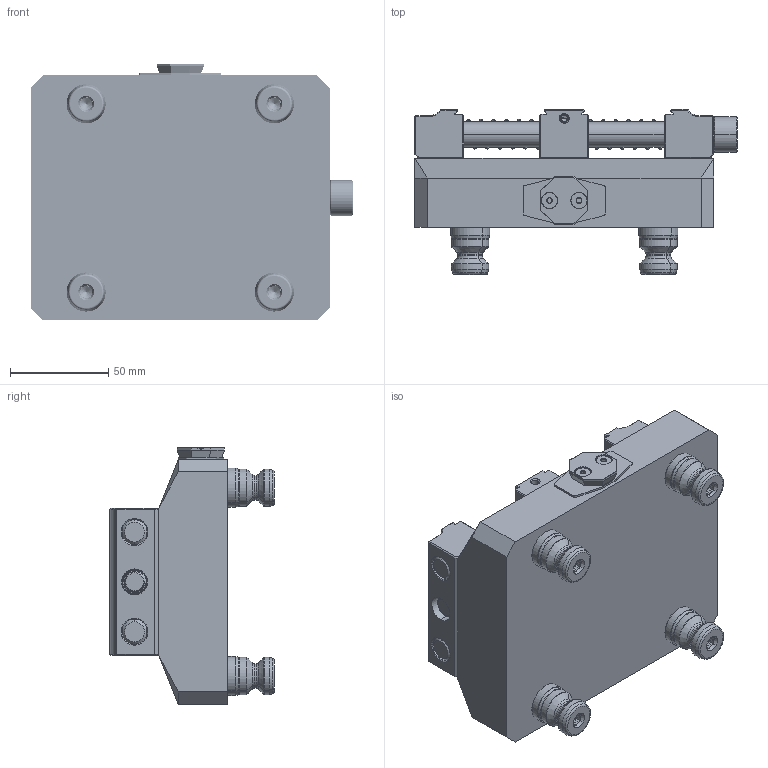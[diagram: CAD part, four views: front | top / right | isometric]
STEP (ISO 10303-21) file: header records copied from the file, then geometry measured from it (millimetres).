
FILE_DESCRIPTION (( 'STEP AP203' ), '1' );
FILE_NAME ('A96-PV3X-6B.STEP', '2022-02-09T18:27:28', ( '' ), ( '' ), 'SwSTEP 2.0', 'SolidWorks 2021', '' );
FILE_SCHEMA (( 'CONFIG_CONTROL_DESIGN' ));
Length unit declared in the file: millimetre
Products named in the file (19): M8X025.SHCS_M8X025.SHCS; 91595A100_METRIC ALLOY STEEL DOWEL PIN_91595A100; PS20F-1_HARD TURN; PS20F; M10X25.CPSS_91390A162; A96-PV3X-6B; PV3X-2B_FINISHED PART; PV3X-6B_150MM SHCS; LC045H10 M; M12X150.SHCS_91290A646; M06X010.DP_91595A438; AS-C; PV3X-1_FINISHED PART ; AS-S; A96-PV3X-1; PV3X-3B_FINISHED PART; 91263A829_ZINC-PLATED ALLOY STEEL HEX DRIVE FLAT HEAD SCREW_91263A829; AS-TP; 0500X6000.DP_0500X6000.DP
Assembly tree (27 placements, depth 3):
  A96-PV3X-6B
    PV3X-6B_150MM SHCS
      PV3X-1_FINISHED PART 
      PV3X-2B_FINISHED PART
      PV3X-3B_FINISHED PART
      0500X6000.DP_0500X6000.DP  x2
      M12X150.SHCS_91290A646
      LC045H10 M  x2
      M8X025.SHCS_M8X025.SHCS  x2
      M06X010.DP_91595A438  x2
    AS-TP
      AS-C
      AS-S
      91263A829_ZINC-PLATED ALLOY STEEL HEX DRIVE FLAT HEAD SCREW_91263A829  x2
      91595A100_METRIC ALLOY STEEL DOWEL PIN_91595A100  x2
    A96-PV3X-1
    PS20F  x4
      PS20F-1_HARD TURN
      M10X25.CPSS_91390A162
Bounding box: 164.4 x 84 x 131 mm (x, y, z)
Volume: 805143.7 mm3; surface area: 140622.3 mm2
Topology: 27 solids, 27 shells, 2190 faces, 5598 edges, 3532 vertices
Faces by surface type: plane 825, cylinder 771, cone 310, bspline 180, torus 88, sphere 16
Entity records: 71454 total; most frequent: CARTESIAN_POINT 34545, ORIENTED_EDGE 7936, DIRECTION 6294, EDGE_CURVE 3968, VERTEX_POINT 2555, VECTOR 2212, LINE 2212, AXIS2_PLACEMENT_3D 2041
